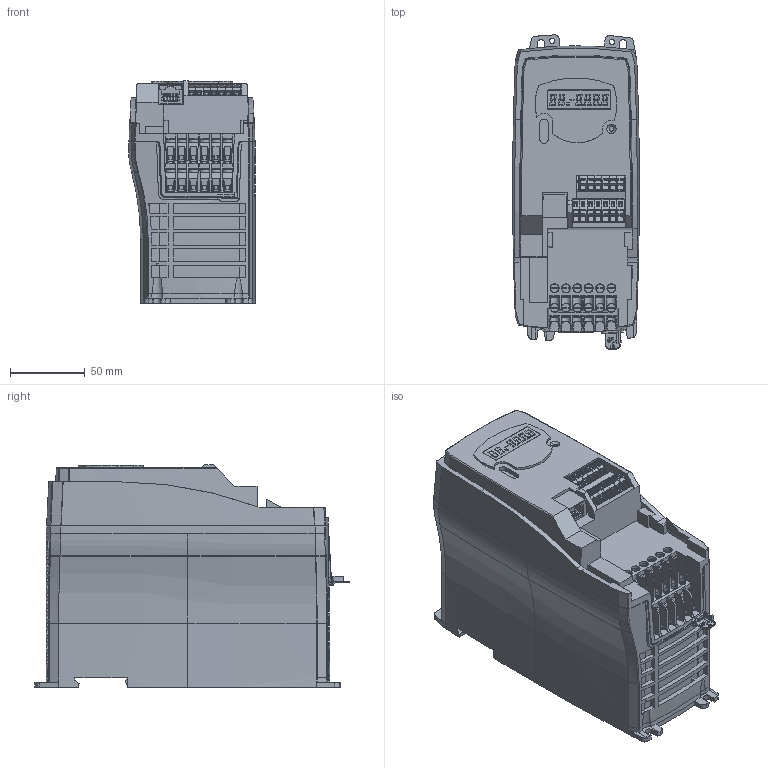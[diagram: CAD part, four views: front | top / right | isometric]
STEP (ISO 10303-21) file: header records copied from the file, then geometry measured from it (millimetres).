
FILE_DESCRIPTION((''),'2;1');
FILE_NAME('PK-SEQ-SK-B-BODY-NO-LOGISTICK','2006-12-19T',('summne01'),(''),'PRO/ENGINEER BY PARAMETRIC TECHNOLOGY CORPORATION, 2006320','PRO/ENGINEER BY PARAMETRIC TECHNOLOGY CORPORATION, 2006320','');
FILE_SCHEMA(('CONFIG_CONTROL_DESIGN'));
Products named in the file (1): PK-SEQ-SK-B-BODY-NO-LOGISTICK
Bounding box: 85 x 210.93 x 149.25 mm (x, y, z)
Surface area: 196790.3 mm2 (no closed solid volume)
Topology: 0 solids, 225 shells, 2725 faces, 10354 edges, 7672 vertices
Faces by surface type: plane 1849, cylinder 696, cone 101, bspline 41, torus 28, extrusion 5, sphere 5
Entity records: 115248 total; most frequent: CARTESIAN_POINT 31700, ORIENTED_EDGE 16290, DIRECTION 15604, EDGE_CURVE 10354, VERTEX_POINT 7672, VECTOR 7190, LINE 7185, AXIS2_PLACEMENT_3D 4207
